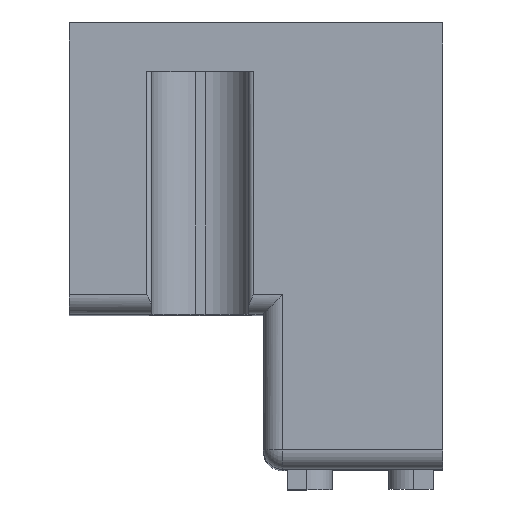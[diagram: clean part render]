
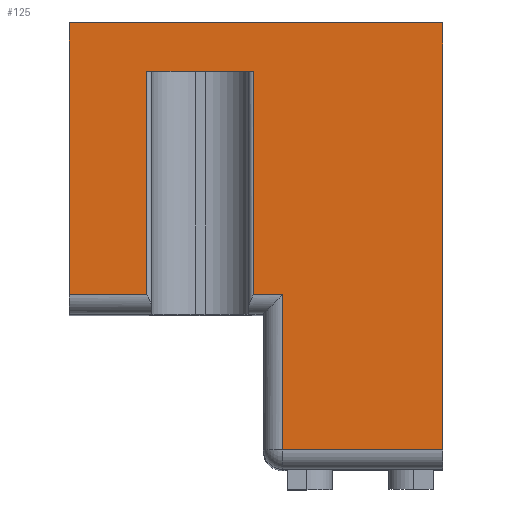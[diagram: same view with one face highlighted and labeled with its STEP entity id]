
A CAD part, top view. The second image highlights one B-rep face of the part: STEP entity #125.
In plain terms, the highlighted planar face has unit normal (0, 0, 1).
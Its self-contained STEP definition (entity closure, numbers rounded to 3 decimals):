
#125=ADVANCED_FACE('',(#475),#474,.T.);
#474=PLANE('',#2762);
#475=FACE_OUTER_BOUND('',#2763,.T.);
#2759=CARTESIAN_POINT('',(-3.85,-0.6,62.2));
#2760=DIRECTION('',(0.,0.,1.));
#2761=DIRECTION('',(0.,-1.,0.));
#2762=AXIS2_PLACEMENT_3D('',#2759,#2760,#2761);
#2763=EDGE_LOOP('',(#3991,#3992,#3993,#3994,#3995,#3996,#3997,#3998,#3999,#4000));
#3991=ORIENTED_EDGE('',*,*,#5244,.F.);
#3992=ORIENTED_EDGE('',*,*,#5247,.T.);
#3993=ORIENTED_EDGE('',*,*,#5248,.T.);
#3994=ORIENTED_EDGE('',*,*,#5249,.F.);
#3995=ORIENTED_EDGE('',*,*,#5250,.F.);
#3996=ORIENTED_EDGE('',*,*,#5251,.T.);
#3997=ORIENTED_EDGE('',*,*,#5252,.F.);
#3998=ORIENTED_EDGE('',*,*,#5188,.F.);
#3999=ORIENTED_EDGE('',*,*,#5208,.T.);
#4000=ORIENTED_EDGE('',*,*,#5253,.T.);
#5188=EDGE_CURVE('',#5833,#5840,#5841,.T.);
#5208=EDGE_CURVE('',#5833,#5967,#5974,.T.);
#5244=EDGE_CURVE('',#6221,#6222,#6223,.T.);
#5247=EDGE_CURVE('',#6221,#6241,#6242,.T.);
#5248=EDGE_CURVE('',#6241,#6248,#6249,.T.);
#5249=EDGE_CURVE('',#6255,#6248,#6256,.T.);
#5250=EDGE_CURVE('',#6262,#6255,#6263,.T.);
#5251=EDGE_CURVE('',#6262,#6269,#6270,.T.);
#5252=EDGE_CURVE('',#5840,#6269,#6276,.T.);
#5253=EDGE_CURVE('',#5967,#6222,#6282,.T.);
#5833=VERTEX_POINT('',#10134);
#5840=VERTEX_POINT('',#10139);
#5841=LINE('',#10140,#10141);
#5967=VERTEX_POINT('',#10220);
#5974=LINE('',#10225,#10226);
#6221=VERTEX_POINT('',#10372);
#6222=VERTEX_POINT('',#10373);
#6223=LINE('',#10374,#10375);
#6241=VERTEX_POINT('',#10388);
#6242=LINE('',#10389,#10390);
#6248=VERTEX_POINT('',#10392);
#6249=LINE('',#10393,#10394);
#6255=VERTEX_POINT('',#10396);
#6256=LINE('',#10397,#10398);
#6262=VERTEX_POINT('',#10400);
#6263=LINE('',#10401,#10402);
#6269=VERTEX_POINT('',#10404);
#6270=LINE('',#10405,#10406);
#6276=LINE('',#10408,#10409);
#6282=LINE('',#10411,#10412);
#10134=CARTESIAN_POINT('',(8.,-10.,62.2));
#10139=CARTESIAN_POINT('',(8.,-33.,62.2));
#10140=CARTESIAN_POINT('',(8.,-10.,62.2));
#10141=VECTOR('',#10142,23.);
#10142=DIRECTION('',(0.,-1.,0.));
#10220=CARTESIAN_POINT('',(19.,-10.,62.2));
#10225=CARTESIAN_POINT('',(8.,-10.,62.2));
#10226=VECTOR('',#10227,11.);
#10227=DIRECTION('',(1.,0.,0.));
#10372=CARTESIAN_POINT('',(22.,-33.,62.2));
#10373=CARTESIAN_POINT('',(19.,-33.,62.2));
#10374=CARTESIAN_POINT('',(22.,-33.,62.2));
#10375=VECTOR('',#10376,3.);
#10376=DIRECTION('',(-1.,0.,0.));
#10388=CARTESIAN_POINT('',(22.,-49.,62.2));
#10389=CARTESIAN_POINT('',(22.,-33.,62.2));
#10390=VECTOR('',#10391,16.);
#10391=DIRECTION('',(0.,-1.,0.));
#10392=CARTESIAN_POINT('',(38.5,-49.,62.2));
#10393=CARTESIAN_POINT('',(22.,-49.,62.2));
#10394=VECTOR('',#10395,16.5);
#10395=DIRECTION('',(1.,0.,0.));
#10396=CARTESIAN_POINT('',(38.5,-5.,62.2));
#10397=CARTESIAN_POINT('',(38.5,-5.,62.2));
#10398=VECTOR('',#10399,44.);
#10399=DIRECTION('',(0.,-1.,0.));
#10400=CARTESIAN_POINT('',(0.,-5.,62.2));
#10401=CARTESIAN_POINT('',(0.,-5.,62.2));
#10402=VECTOR('',#10403,38.5);
#10403=DIRECTION('',(1.,0.,0.));
#10404=CARTESIAN_POINT('',(0.,-33.,62.2));
#10405=CARTESIAN_POINT('',(0.,-5.,62.2));
#10406=VECTOR('',#10407,28.);
#10407=DIRECTION('',(0.,-1.,0.));
#10408=CARTESIAN_POINT('',(8.,-33.,62.2));
#10409=VECTOR('',#10410,8.);
#10410=DIRECTION('',(-1.,0.,0.));
#10411=CARTESIAN_POINT('',(19.,-10.,62.2));
#10412=VECTOR('',#10413,23.);
#10413=DIRECTION('',(0.,-1.,0.));
